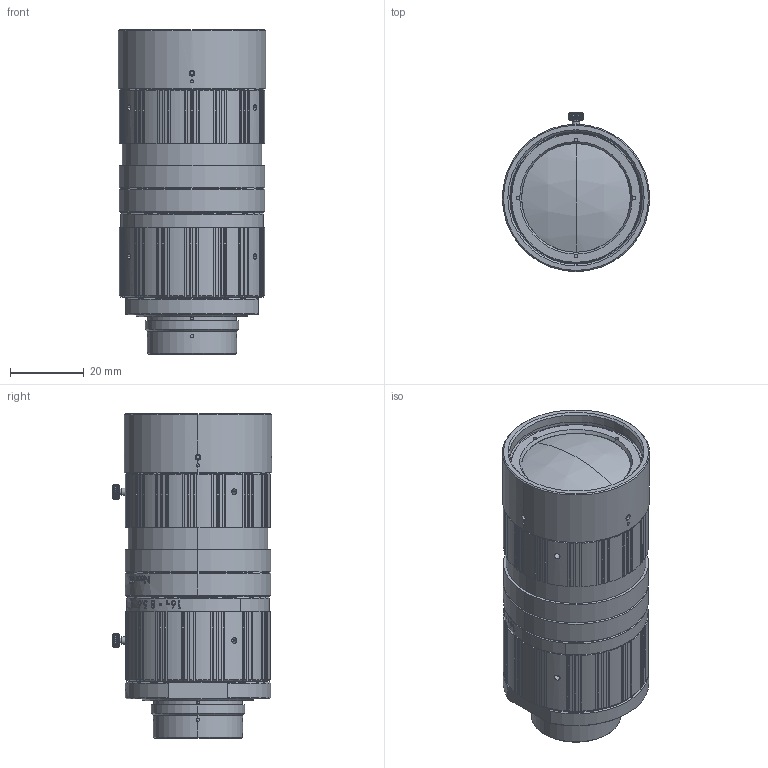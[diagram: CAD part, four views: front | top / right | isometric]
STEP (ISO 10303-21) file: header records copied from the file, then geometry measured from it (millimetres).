
FILE_DESCRIPTION (( 'STEP AP214' ), '1' );
FILE_NAME ('ML-U1228ZR-19C.STEP', '2026-02-10T05:07:44', ( '' ), ( '' ), 'SwSTEP 2.0', 'SolidWorks 2025', '' );
FILE_SCHEMA (( 'AUTOMOTIVE_DESIGN' ));
Length unit declared in the file: millimetre
Products named in the file (1): ML-U1228ZR-19C
Bounding box: 40 x 43.25 x 88.25 mm (x, y, z)
Volume: 95305 mm3; surface area: 17648.8 mm2
Topology: 1 solids, 1 shells, 1265 faces, 3434 edges, 2259 vertices
Faces by surface type: plane 555, cylinder 447, bspline 187, cone 70, sphere 4, torus 2
Entity records: 58623 total; most frequent: CARTESIAN_POINT 29498, ORIENTED_EDGE 6868, DIRECTION 4798, EDGE_CURVE 3434, VERTEX_POINT 2259, AXIS2_PLACEMENT_3D 1729, B_SPLINE_CURVE_WITH_KNOTS 1444, EDGE_LOOP 1353
